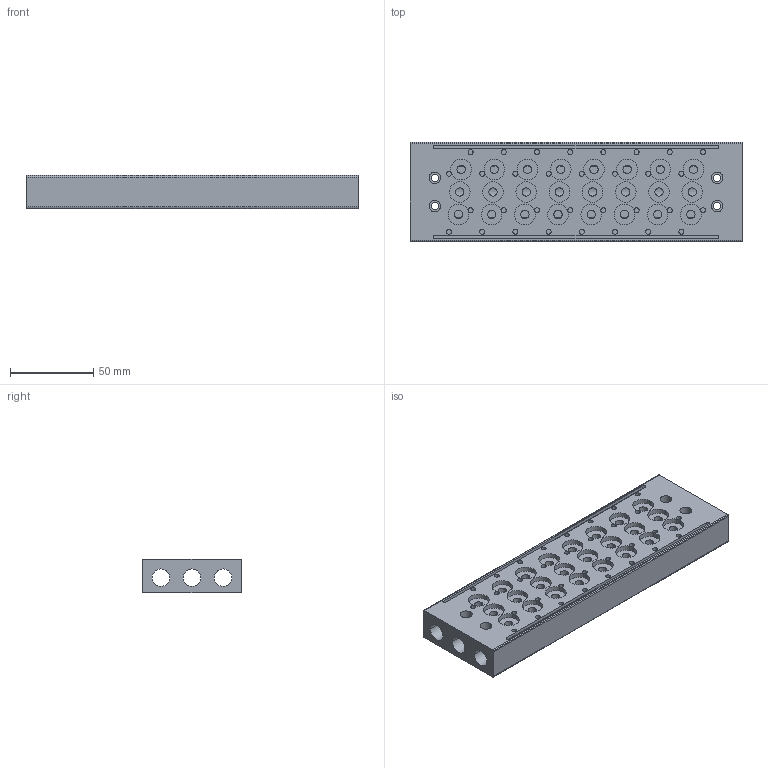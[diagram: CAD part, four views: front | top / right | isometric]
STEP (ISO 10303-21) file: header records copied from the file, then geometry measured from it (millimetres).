
FILE_DESCRIPTION((''),'2;1');
FILE_NAME('05_008_2.stp','2003-01-01T23:20:16',('Branislav Petkovic'),('AZ Pneumatica'),'AutoCAD STEP 2000i','AutoCAD 2000i','Via J. F. Kennedy, 26, 20020 Misinto (MI), ITALY');
FILE_SCHEMA(('CONFIG_CONTROL_DESIGN'));
Length unit declared in the file: millimetre
Products named in the file (2): 05_008_2; PART1
Assembly tree (1 placements, depth 2):
  05_008_2
    PART1
Bounding box: 200 x 60 x 20 mm (x, y, z)
Surface area: 61881.4 mm2 (no closed solid volume)
Topology: 0 solids, 1 shells, 286 faces, 674 edges, 452 vertices
Faces by surface type: cylinder 198, plane 88
Entity records: 9407 total; most frequent: CARTESIAN_POINT 2230, DIRECTION 1606, ORIENTED_EDGE 1348, AXIS2_PLACEMENT_3D 684, EDGE_CURVE 674, VERTEX_POINT 452, EDGE_LOOP 410, CIRCLE 396
